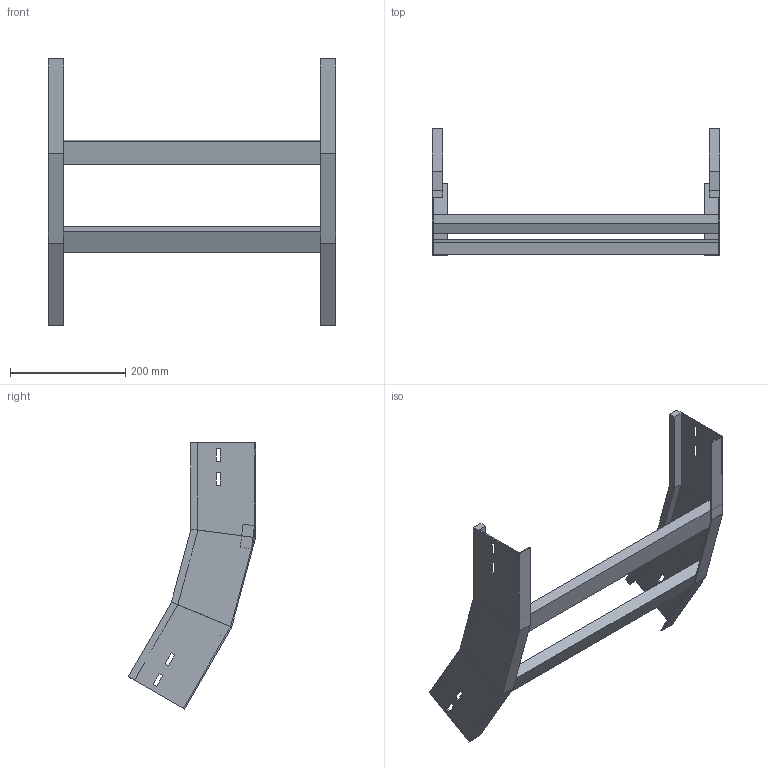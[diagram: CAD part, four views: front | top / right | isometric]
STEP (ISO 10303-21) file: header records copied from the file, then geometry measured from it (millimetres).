
FILE_DESCRIPTION (( 'STEP AP214' ), '1' );
FILE_NAME ('B2X32B5J500XX.step', '2025-03-20T10:01:01', ( '' ), ( '' ), 'SwSTEP 2.0', 'SolidWorks 2023', '' );
FILE_SCHEMA (( 'AUTOMOTIVE_DESIGN' ));
Length unit declared in the file: millimetre
Products named in the file (3): LONGH.SALITA_30°_H112.5_R500; B2X32B5J500XX; TRAVERSINO_500
Assembly tree (4 placements, depth 2):
  B2X32B5J500XX
    LONGH.SALITA_30°_H112.5_R500  x2
    TRAVERSINO_500  x2
Bounding box: 500 x 221.37 x 462.57 mm (x, y, z)
Volume: 1223890.7 mm3; surface area: 411237.4 mm2
Topology: 4 solids, 4 shells, 96 faces, 232 edges, 144 vertices
Faces by surface type: plane 96
Entity records: 1472 total; most frequent: CARTESIAN_POINT 243, ORIENTED_EDGE 232, DIRECTION 226, EDGE_CURVE 116, LINE 116, VECTOR 116, VERTEX_POINT 72, EDGE_LOOP 56
